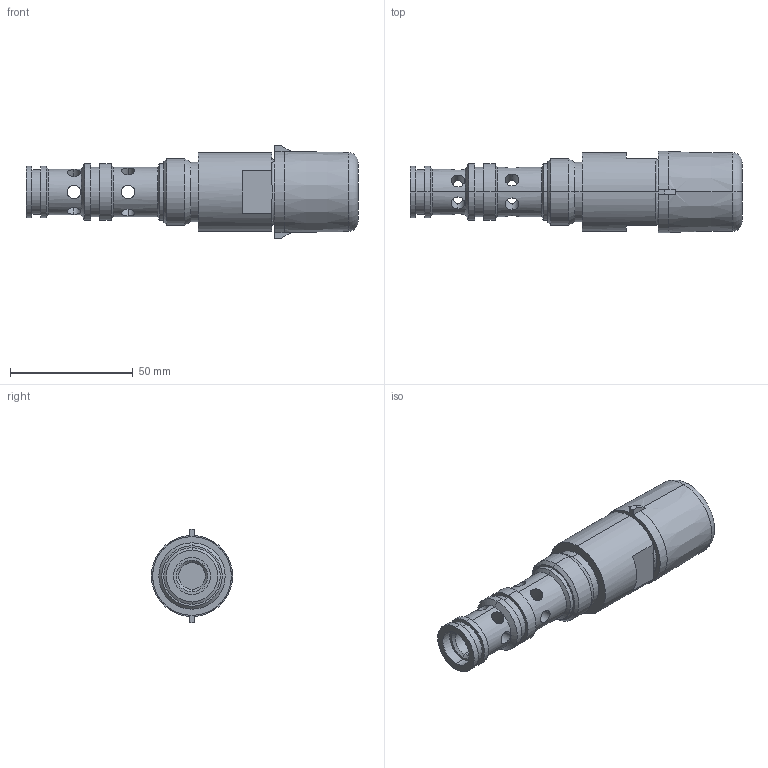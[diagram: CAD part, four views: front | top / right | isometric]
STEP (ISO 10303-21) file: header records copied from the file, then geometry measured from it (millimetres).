
FILE_DESCRIPTION((''),'2;1');
FILE_NAME('VRN2_10','2011-03-14T',('tvatras'),(''),'PRO/ENGINEER BY PARAMETRIC TECHNOLOGY CORPORATION, 2010180','PRO/ENGINEER BY PARAMETRIC TECHNOLOGY CORPORATION, 2010180','');
FILE_SCHEMA(('CONFIG_CONTROL_DESIGN'));
Length unit declared in the file: millimetre
Products named in the file (1): VRN2_10
Bounding box: 135 x 33 x 38 mm (x, y, z)
Surface area: 20976.9 mm2 (no closed solid volume)
Topology: 0 solids, 2 shells, 111 faces, 276 edges, 169 vertices
Faces by surface type: cylinder 60, plane 27, cone 18, torus 6
Entity records: 3922 total; most frequent: CARTESIAN_POINT 1239, DIRECTION 551, ORIENTED_EDGE 538, EDGE_CURVE 275, AXIS2_PLACEMENT_3D 218, VERTEX_POINT 167, EDGE_LOOP 134, VECTOR 115
